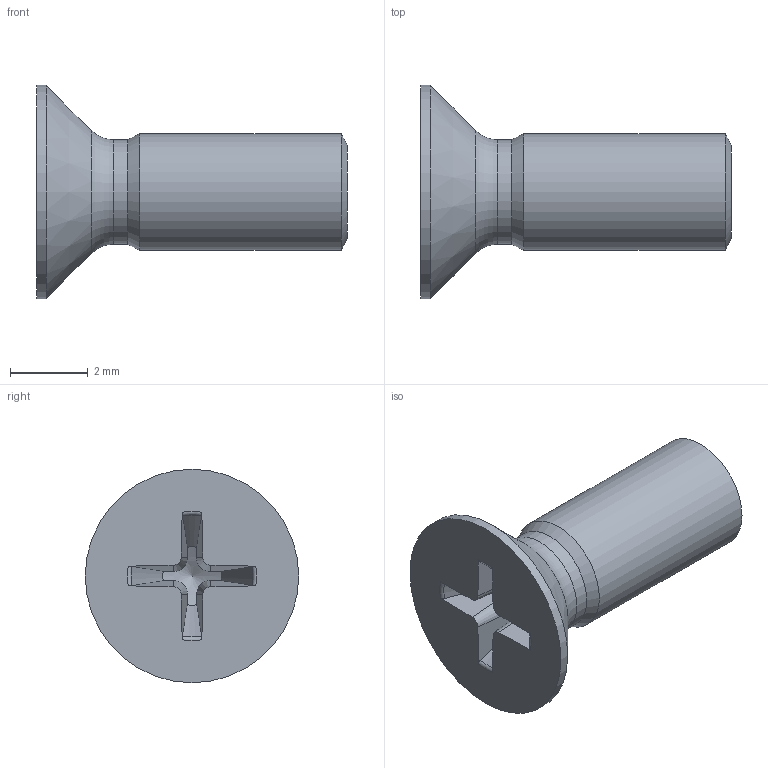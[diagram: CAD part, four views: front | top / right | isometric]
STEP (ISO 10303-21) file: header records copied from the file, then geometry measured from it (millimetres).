
FILE_DESCRIPTION(/* description */ ('Senkkopfschraube mit Kreuzschlitz DIN 965- M3x8','CAx-IF Rec.Pracs.---Representation and Presentation of Product Manufacturing Information (PMI)---4.0---2014-10-13'),/* implementation_level */ '2;1');
FILE_NAME(/* name */ 'E:\CAMTEC_2020_Pack and Go\Subrack_2U\2530279.stp',/* time_stamp */ '2020-09-21T13:46:13+02:00',/* author */ ('rryba'),/* organization */ (''),/* preprocessor_version */ 'ST-DEVELOPER v18.1',/* originating_system */ 'Autodesk Inventor 2021',/* authorisation */ '');
FILE_SCHEMA (('AP242_MANAGED_MODEL_BASED_3D_ENGINEERING_MIM_LF { 1 0 10303 442 1 1 4 }'));
Length unit declared in the file: millimetre
Products named in the file (1): 2530279
Bounding box: 8 x 5.5 x 5.5 mm (x, y, z)
Volume: 65.4 mm3; surface area: 132 mm2
Topology: 1 solids, 1 shells, 30 faces, 119 edges, 129 vertices
Faces by surface type: cone 12, plane 10, torus 5, cylinder 3
Full cylindrical faces by diameter (mm): 2.693 x1, 3 x1, 5.5 x1
Entity records: 1322 total; most frequent: CARTESIAN_POINT 381, DIRECTION 185, ORIENTED_EDGE 160, EDGE_CURVE 80, AXIS2_PLACEMENT_3D 77, VERTEX_POINT 53, CIRCLE 46, STYLED_ITEM 41
